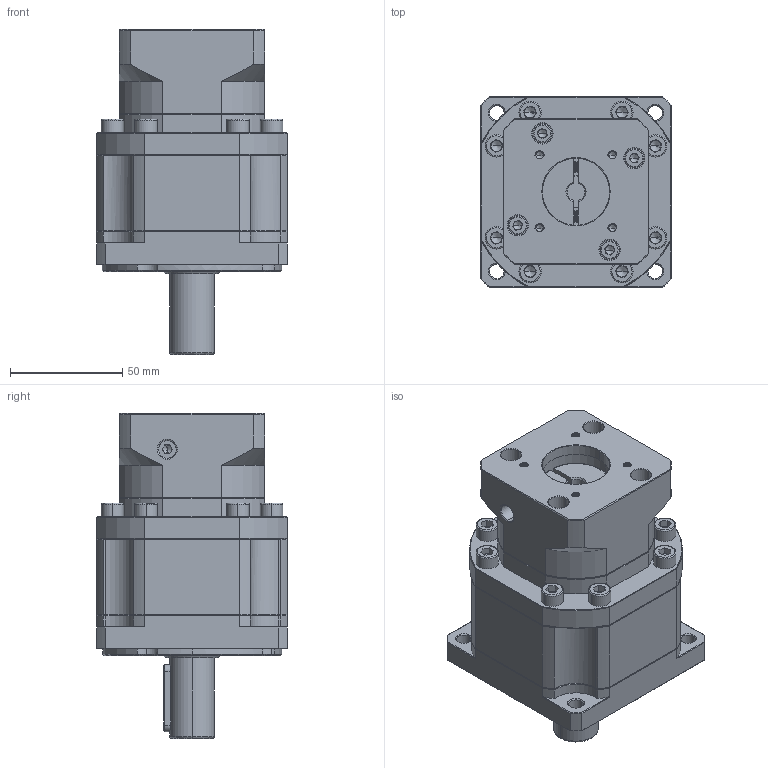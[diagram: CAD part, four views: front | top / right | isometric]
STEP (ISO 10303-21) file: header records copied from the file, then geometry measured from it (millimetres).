
FILE_DESCRIPTION (( 'STEP AP214' ), '1' );
FILE_NAME ('ZB090-D20-L2-P2-8-30-46-M4.step', '2023-08-18T13:33:41', ( '' ), ( '' ), 'SwSTEP 2.0', 'SolidWorks 2016', '' );
FILE_SCHEMA (( 'AUTOMOTIVE_DESIGN' ));
Length unit declared in the file: millimetre
Products named in the file (1): ZB090-D20-L2-P2-8-30-46-M4
Bounding box: 85 x 85 x 145 mm (x, y, z)
Volume: 550101.7 mm3; surface area: 76932.1 mm2
Topology: 6 solids, 6 shells, 2351 faces, 6251 edges, 3996 vertices
Faces by surface type: plane 1185, bspline 426, cylinder 394, cone 324, torus 22
Entity records: 123142 total; most frequent: CARTESIAN_POINT 42166, ORIENTED_EDGE 12410, DIRECTION 9899, EDGE_CURVE 6205, VERTEX_POINT 3996, VECTOR 3927, LINE 3927, AXIS2_PLACEMENT_3D 2986
